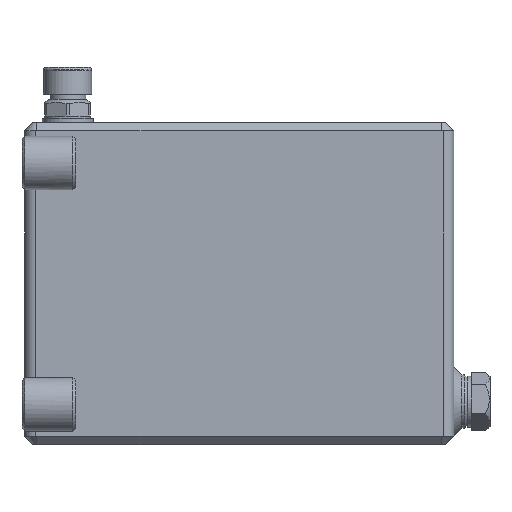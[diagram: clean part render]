
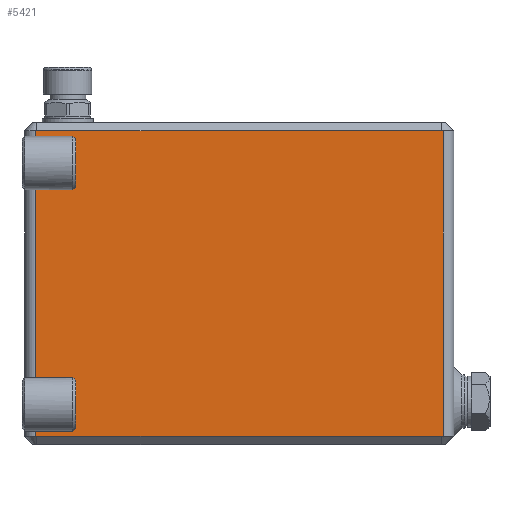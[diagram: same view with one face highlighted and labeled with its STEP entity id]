
A CAD part, left-side view. The second image highlights one B-rep face of the part: STEP entity #5421.
In plain terms, the highlighted planar face has unit normal (-1, 0, 0).
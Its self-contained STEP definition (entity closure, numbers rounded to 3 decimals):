
#78=LINE('',#7646,#281);
#84=LINE('',#7689,#287);
#134=LINE('',#7930,#337);
#135=LINE('',#7935,#338);
#146=LINE('',#7967,#349);
#148=LINE('',#7977,#351);
#154=LINE('',#8003,#357);
#155=LINE('',#8005,#358);
#156=LINE('',#8006,#359);
#157=LINE('',#8008,#360);
#158=LINE('',#8009,#361);
#159=LINE('',#8011,#362);
#160=LINE('',#8012,#363);
#161=LINE('',#8013,#364);
#162=LINE('',#8014,#365);
#163=LINE('',#8015,#366);
#164=LINE('',#8016,#367);
#165=LINE('',#8018,#368);
#281=VECTOR('',#6465,1000.);
#287=VECTOR('',#6515,1000.);
#337=VECTOR('',#6713,1000.);
#338=VECTOR('',#6718,1000.);
#349=VECTOR('',#6745,1000.);
#351=VECTOR('',#6755,1000.);
#357=VECTOR('',#6781,1000.);
#358=VECTOR('',#6782,1000.);
#359=VECTOR('',#6783,1000.);
#360=VECTOR('',#6784,1000.);
#361=VECTOR('',#6785,1000.);
#362=VECTOR('',#6786,1000.);
#363=VECTOR('',#6787,1000.);
#364=VECTOR('',#6788,1000.);
#365=VECTOR('',#6789,1000.);
#366=VECTOR('',#6790,1000.);
#367=VECTOR('',#6791,1000.);
#368=VECTOR('',#6792,1000.);
#582=PLANE('',#5857);
#1107=ORIENTED_EDGE('',*,*,#1692,.T.);
#1108=ORIENTED_EDGE('',*,*,#1838,.T.);
#1109=ORIENTED_EDGE('',*,*,#1839,.T.);
#1110=ORIENTED_EDGE('',*,*,#1840,.T.);
#1111=ORIENTED_EDGE('',*,*,#1841,.T.);
#1112=ORIENTED_EDGE('',*,*,#1710,.T.);
#1113=ORIENTED_EDGE('',*,*,#1842,.T.);
#1114=ORIENTED_EDGE('',*,*,#1843,.T.);
#1115=ORIENTED_EDGE('',*,*,#1844,.T.);
#1116=ORIENTED_EDGE('',*,*,#1821,.F.);
#1117=ORIENTED_EDGE('',*,*,#1845,.F.);
#1118=ORIENTED_EDGE('',*,*,#1826,.F.);
#1119=ORIENTED_EDGE('',*,*,#1846,.T.);
#1120=ORIENTED_EDGE('',*,*,#1805,.F.);
#1121=ORIENTED_EDGE('',*,*,#1847,.F.);
#1122=ORIENTED_EDGE('',*,*,#1803,.F.);
#1123=ORIENTED_EDGE('',*,*,#1848,.T.);
#1124=ORIENTED_EDGE('',*,*,#1849,.T.);
#1692=EDGE_CURVE('',#2128,#2124,#78,.T.);
#1710=EDGE_CURVE('',#2143,#2139,#84,.T.);
#1803=EDGE_CURVE('',#2216,#2214,#134,.T.);
#1805=EDGE_CURVE('',#2217,#2219,#135,.T.);
#1821=EDGE_CURVE('',#2230,#2232,#146,.T.);
#1826=EDGE_CURVE('',#2235,#2234,#148,.T.);
#1838=EDGE_CURVE('',#2124,#2246,#154,.T.);
#1839=EDGE_CURVE('',#2246,#2127,#155,.T.);
#1840=EDGE_CURVE('',#2127,#2247,#156,.T.);
#1841=EDGE_CURVE('',#2247,#2143,#157,.T.);
#1842=EDGE_CURVE('',#2139,#2248,#158,.T.);
#1843=EDGE_CURVE('',#2248,#2142,#159,.T.);
#1844=EDGE_CURVE('',#2142,#2232,#160,.T.);
#1845=EDGE_CURVE('',#2234,#2230,#161,.T.);
#1846=EDGE_CURVE('',#2235,#2219,#162,.T.);
#1847=EDGE_CURVE('',#2214,#2217,#163,.T.);
#1848=EDGE_CURVE('',#2216,#2249,#164,.T.);
#1849=EDGE_CURVE('',#2249,#2128,#165,.T.);
#2124=VERTEX_POINT('',#7630);
#2127=VERTEX_POINT('',#7641);
#2128=VERTEX_POINT('',#7645);
#2139=VERTEX_POINT('',#7673);
#2142=VERTEX_POINT('',#7684);
#2143=VERTEX_POINT('',#7688);
#2214=VERTEX_POINT('',#7925);
#2216=VERTEX_POINT('',#7929);
#2217=VERTEX_POINT('',#7933);
#2219=VERTEX_POINT('',#7936);
#2230=VERTEX_POINT('',#7965);
#2232=VERTEX_POINT('',#7968);
#2234=VERTEX_POINT('',#7974);
#2235=VERTEX_POINT('',#7976);
#2246=VERTEX_POINT('',#8004);
#2247=VERTEX_POINT('',#8007);
#2248=VERTEX_POINT('',#8010);
#2249=VERTEX_POINT('',#8017);
#2824=EDGE_LOOP('',(#1107,#1108,#1109,#1110,#1111,#1112,#1113,#1114,#1115,
#1116,#1117,#1118,#1119,#1120,#1121,#1122,#1123,#1124));
#3236=FACE_BOUND('',#2824,.T.);
#5421=ADVANCED_FACE('',(#3236),#582,.F.);
#5857=AXIS2_PLACEMENT_3D('',#8002,#6779,#6780);
#6465=DIRECTION('',(0.,0.,-1.));
#6515=DIRECTION('',(0.,0.,-1.));
#6713=DIRECTION('',(0.,-1.,0.));
#6718=DIRECTION('',(0.,-1.,0.));
#6745=DIRECTION('',(0.,1.,0.));
#6755=DIRECTION('',(0.,1.,0.));
#6779=DIRECTION('',(1.,0.,0.));
#6780=DIRECTION('',(0.,1.,0.));
#6781=DIRECTION('',(0.,0.,-1.));
#6782=DIRECTION('',(0.,1.,0.));
#6783=DIRECTION('',(0.,0.,-1.));
#6784=DIRECTION('',(0.,-1.,0.));
#6785=DIRECTION('',(0.,0.,-1.));
#6786=DIRECTION('',(0.,1.,0.));
#6787=DIRECTION('',(0.,0.,-1.));
#6788=DIRECTION('',(0.,1.,0.));
#6789=DIRECTION('',(0.,0.,1.));
#6790=DIRECTION('',(0.,-1.,0.));
#6791=DIRECTION('',(0.,0.,-1.));
#6792=DIRECTION('',(0.,-1.,0.));
#7630=CARTESIAN_POINT('',(-80.,62.,105.));
#7641=CARTESIAN_POINT('',(-80.,76.,99.));
#7645=CARTESIAN_POINT('',(-80.,62.,111.));
#7646=CARTESIAN_POINT('',(-80.,62.,111.));
#7673=CARTESIAN_POINT('',(-80.,62.,15.));
#7684=CARTESIAN_POINT('',(-80.,76.,9.));
#7688=CARTESIAN_POINT('',(-80.,62.,21.));
#7689=CARTESIAN_POINT('',(-80.,62.,21.));
#7925=CARTESIAN_POINT('',(-80.,75.5,117.));
#7929=CARTESIAN_POINT('',(-80.,76.,117.));
#7930=CARTESIAN_POINT('',(-80.,80.,117.));
#7933=CARTESIAN_POINT('',(-80.,-75.5,117.));
#7935=CARTESIAN_POINT('',(-80.,80.,117.));
#7936=CARTESIAN_POINT('',(-80.,-76.,117.));
#7965=CARTESIAN_POINT('',(-80.,75.5,3.));
#7967=CARTESIAN_POINT('',(-80.,-80.,3.));
#7968=CARTESIAN_POINT('',(-80.,76.,3.));
#7974=CARTESIAN_POINT('',(-80.,-75.5,3.));
#7976=CARTESIAN_POINT('',(-80.,-76.,3.));
#7977=CARTESIAN_POINT('',(-80.,-80.,3.));
#8002=CARTESIAN_POINT('',(-80.,0.,60.));
#8003=CARTESIAN_POINT('',(-80.,62.,111.));
#8004=CARTESIAN_POINT('',(-80.,62.,99.));
#8005=CARTESIAN_POINT('',(-80.,62.,99.));
#8006=CARTESIAN_POINT('',(-80.,76.,117.));
#8007=CARTESIAN_POINT('',(-80.,76.,21.));
#8008=CARTESIAN_POINT('',(-80.,76.,21.));
#8009=CARTESIAN_POINT('',(-80.,62.,21.));
#8010=CARTESIAN_POINT('',(-80.,62.,9.));
#8011=CARTESIAN_POINT('',(-80.,62.,9.));
#8012=CARTESIAN_POINT('',(-80.,76.,117.));
#8013=CARTESIAN_POINT('',(-80.,-75.5,3.));
#8014=CARTESIAN_POINT('',(-80.,-76.,3.));
#8015=CARTESIAN_POINT('',(-80.,75.5,117.));
#8016=CARTESIAN_POINT('',(-80.,76.,117.));
#8017=CARTESIAN_POINT('',(-80.,76.,111.));
#8018=CARTESIAN_POINT('',(-80.,76.,111.));
